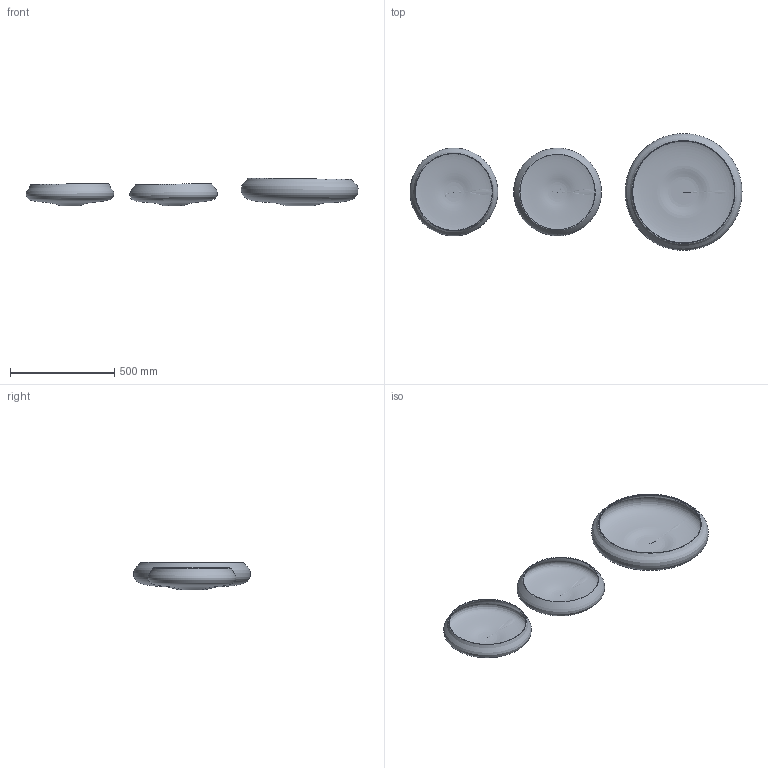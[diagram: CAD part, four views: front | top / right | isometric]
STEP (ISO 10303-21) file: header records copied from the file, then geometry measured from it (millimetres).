
FILE_DESCRIPTION(/* description */ (''),/* implementation_level */ '2;1');
FILE_NAME(/* name */ 'SkLO_ExpandBowl',/* time_stamp */ '2024-08-06T15:56:15+02:00',/* author */ (''),/* organization */ (''),/* preprocessor_version */ 'ST-DEVELOPER v16.5',/* originating_system */ 'Rhino 7.34',/* authorisation */ '');
FILE_SCHEMA (('CONFIG_CONTROL_DESIGN'));
Length unit declared in the file: millimetre
Products named in the file (1): Document
Bounding box: 1591.19 x 559.95 x 130.47 mm (x, y, z)
Volume: 5297827 mm3; surface area: 1673329.7 mm2
Topology: 3 solids, 3 shells, 7 faces, 17 edges, 10 vertices
Faces by surface type: bspline 7
Entity records: 73673 total; most frequent: CARTESIAN_POINT 73495, ORIENTED_EDGE 22, EDGE_CURVE 11, B_SPLINE_CURVE_WITH_KNOTS 11, VERTEX_POINT 10, ADVANCED_FACE 7, FACE_OUTER_BOUND 7, EDGE_LOOP 7
